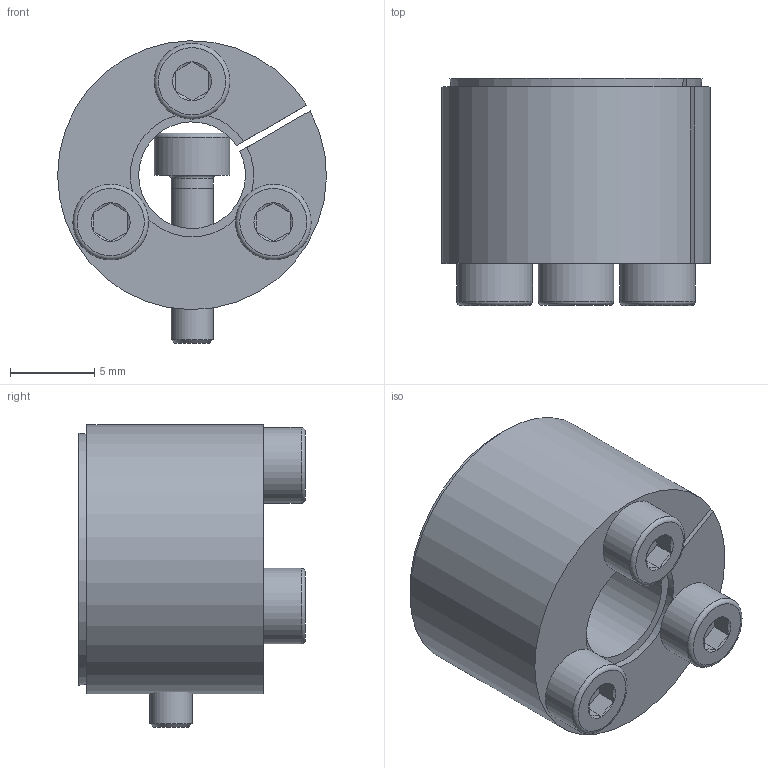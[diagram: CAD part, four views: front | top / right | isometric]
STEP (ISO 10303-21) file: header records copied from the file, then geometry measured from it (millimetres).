
FILE_DESCRIPTION( ( 'Unknown' ), '1' );
FILE_NAME( 'C:/Dokumente und Einstellungen/Sven/Desktop/homepage/cad - homepage/KBS61/KBS 61 - 6,35 x 16.stp', 'Unknown', ( 'Unknown' ), ( 'Unknown' ), 'XStep 1.0', 'Unknown', ' ' );
FILE_SCHEMA( ( 'automotive_design' ) );
Length unit declared in the file: millimetre
Products named in the file (5): Assem1; KBS 61 - 6,35 x 16; ISO EN DIN 4762 M2,5x10; ISO EN DIN 4762 M2,5x10-oa0; ISO EN DIN 4762 M2,5x10-oa1
Bounding box: 16 x 13.5 x 18 mm (x, y, z)
Volume: 3828.6 mm3; surface area: 3798.4 mm2
Topology: 8 solids, 8 shells, 176 faces, 330 edges, 194 vertices
Faces by surface type: plane 84, cone 46, cylinder 34, torus 12
Full cylindrical faces by diameter (mm): 2.1 x6, 2.5 x18, 4.5 x6
Entity records: 2356 total; most frequent: CARTESIAN_POINT 433, DIRECTION 364, ORIENTED_EDGE 270, AXIS2_PLACEMENT_3D 158, EDGE_CURVE 135, EDGE_LOOP 130, FACE_OUTER_BOUND 109, VERTEX_POINT 91
